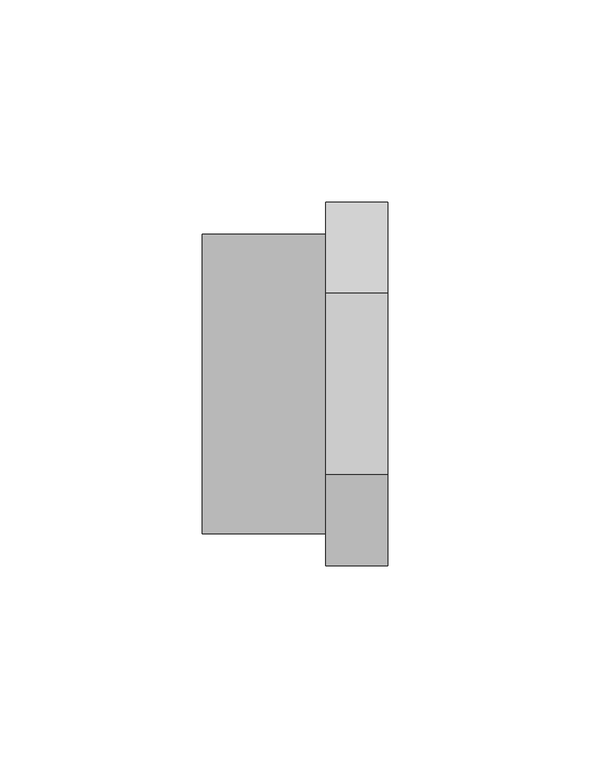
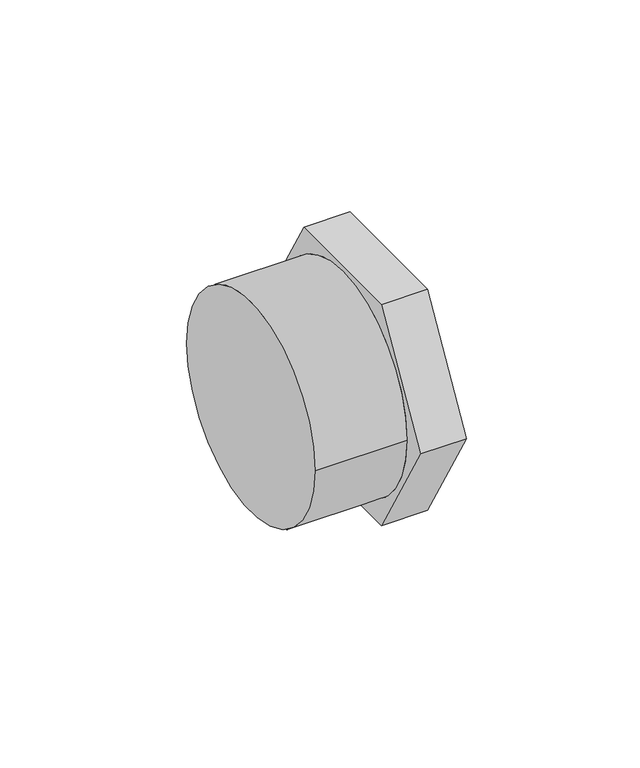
"""IFC4 building model written with IfcOpenShell, lengths in millimetres: pipe fitting geometry, 01011011 : Tapones M."""

from ifc_helpers import new_model, si_unit, point, frame, origin, origin_2d, place, context, project, spatial, circle_curve, trimmed, segment, composite_curve, outline, extrude, source, transform, mapped, element, save
from ifc_brep_helpers import plane_surface, cylinder_surface, advanced_brep


def pipe_fitting_2c44d642(model_context):
    return source(origin(), model_context, "Body", "SolidModel", [
        extrude(outline(composite_curve([segment(trimmed(circle_curve(origin_2d(), 37.025), [point((-37.025, 0.0))], [point((37.025, 0.0))], False, "CARTESIAN"), True, "CONTINUOUS"), segment(trimmed(circle_curve(origin_2d(), 37.025), [point((37.025, 0.0))], [point((-37.025, 0.0))], False, "CARTESIAN"), True, "CONTINUOUS")], self_intersect=False)), frame((0.0, 0.0, 0.0), z_axis=(1.0, 0.0, 0.0), x_axis=(0.0, 1.0, 0.0)), (0.0, 0.0, 1.0), 30.6666667),
        advanced_brep(
        [(46.0, -22.5166605, 39.0), (46.0, -45.033321, 0.0), (46.0, -22.5166605, -39.0), (46.0, 22.5166605, -39.0), (46.0, 45.033321, 0.0), (46.0, 22.5166605, 39.0), (30.6666667, -22.5166605, 39.0), (30.6666667, 22.5166605, 39.0), (30.6666667, 45.033321, 0.0), (30.6666667, 22.5166605, -39.0), (30.6666667, -22.5166605, -39.0), (30.6666667, -45.033321, 0.0), (30.6666667, 37.025, 0.0), (30.6666667, -37.025, 0.0), (0.0, -37.025, 0.0), (0.0, 37.025, 0.0)],
        [
            (0, 1),
            (1, 2),
            (2, 3),
            (3, 4),
            (4, 5),
            (5, 0),
            (6, 7),
            (7, 8),
            (8, 9),
            (9, 10),
            (10, 11),
            (11, 6),
            (12, 13, circle_curve(frame((30.6666667, 0.0, 0.0), z_axis=(1.0, 0.0, 0.0), x_axis=(0.0, 1.0, 0.0)), 37.025)),
            (13, 12, circle_curve(frame((30.6666667, 0.0, 0.0), z_axis=(1.0, 0.0, 0.0), x_axis=(0.0, 1.0, 0.0)), 37.025)),
            (0, 6),
            (11, 1),
            (10, 2),
            (9, 3),
            (8, 4),
            (7, 5),
            (14, 15, circle_curve(frame((0.0, 0.0, 0.0), z_axis=(-1.0, 0.0, 0.0), x_axis=(0.0, 1.0, 0.0)), 37.025)),
            (15, 14, circle_curve(frame((0.0, 0.0, 0.0), z_axis=(-1.0, 0.0, 0.0), x_axis=(0.0, 1.0, 0.0)), 37.025)),
            (14, 13),
            (12, 15),
        ],
        [
            plane_surface(frame((46.0, -22.5166605, 39.0), z_axis=(1.0, 0.0, 0.0), x_axis=(0.0, -0.500000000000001, -0.8660254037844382))),
            plane_surface(frame((30.6666667, -22.5166605, 39.0), z_axis=(-1.0, 0.0, 0.0), x_axis=(0.0, 0.500000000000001, 0.8660254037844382))),
            plane_surface(frame((46.0, -22.5166605, 39.0), z_axis=(0.0, -0.8660254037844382, 0.500000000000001), x_axis=(-1.0, 0.0, 0.0))),
            plane_surface(frame((46.0, -45.033321, 0.0), z_axis=(0.0, -0.8660254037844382, -0.500000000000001), x_axis=(-1.0, 0.0, 0.0))),
            plane_surface(frame((46.0, -22.5166605, -39.0), z_axis=(0.0, 0.0, -1.0), x_axis=(-1.0, 0.0, 0.0))),
            plane_surface(frame((46.0, 22.5166605, -39.0), z_axis=(0.0, 0.8660254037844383, -0.5000000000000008), x_axis=(-1.0, 0.0, 0.0))),
            plane_surface(frame((46.0, 45.033321, 0.0), z_axis=(0.0, 0.8660254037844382, 0.500000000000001), x_axis=(-1.0, 0.0, 0.0))),
            plane_surface(frame((46.0, 22.5166605, 39.0), z_axis=(0.0, 0.0, 1.0), x_axis=(-1.0, 0.0, 0.0))),
            plane_surface(frame((0.0, 0.0, 0.0), z_axis=(-1.0, 0.0, 0.0), x_axis=(0.0, 0.0, 1.0))),
            cylinder_surface(frame((0.0, 0.0, 0.0), z_axis=(-1.0, 0.0, 0.0), x_axis=(0.0, 1.0, 0.0)), 37.025),
        ],
        [
            (0, [[1, 2, 3, 4, 5, 6]]),
            (1, [[7, 8, 9, 10, 11, 12], [13, 14]]),
            (2, [[-1, 15, -12, 16]]),
            (3, [[-2, -16, -11, 17]]),
            (4, [[-3, -17, -10, 18]]),
            (5, [[-4, -18, -9, 19]]),
            (6, [[-5, -19, -8, 20]]),
            (7, [[-6, -20, -7, -15]]),
            (8, [[21, 22]]),
            (9, [[-21, 23, -13, 24]]),
            (9, [[-22, -24, -14, -23]]),
        ],
    ),
    ])


if __name__ == "__main__":
    model = new_model("IFC4")
    model_context = context("Model", 3, world=origin())
    ifc_project = project(units=[si_unit("LENGTHUNIT", "METRE", prefix="MILLI")], contexts=[model_context])
    site = spatial("IfcSite", under=ifc_project)
    building = spatial("IfcBuilding", under=site)
    placement = place(None, origin())
    pipe_fitting_shape = pipe_fitting_2c44d642(model_context)
    element("IfcPipeFitting", 1, ObjectType="01011011 : Tapones M", at=placement, inside=building, context=model_context, shape_type="MappedRepresentation", body=[
        mapped(pipe_fitting_shape, transform((0.0, 0.0, 0.0), x_axis=(1.0, 0.0, 0.0), y_axis=(0.0, 1.0, 0.0), z_axis=(0.0, 0.0, 1.0))),
    ])
    save(model, "model.ifc")
